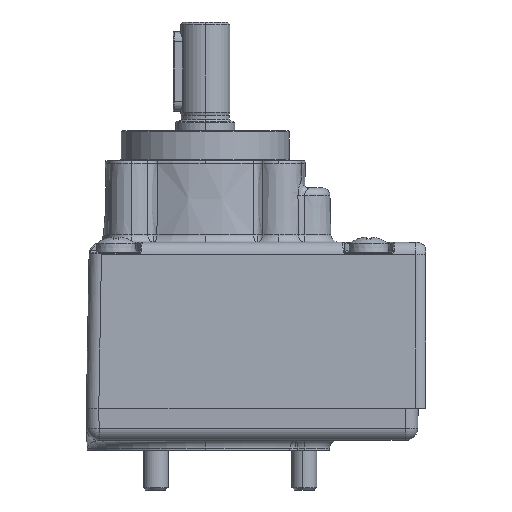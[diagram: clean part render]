
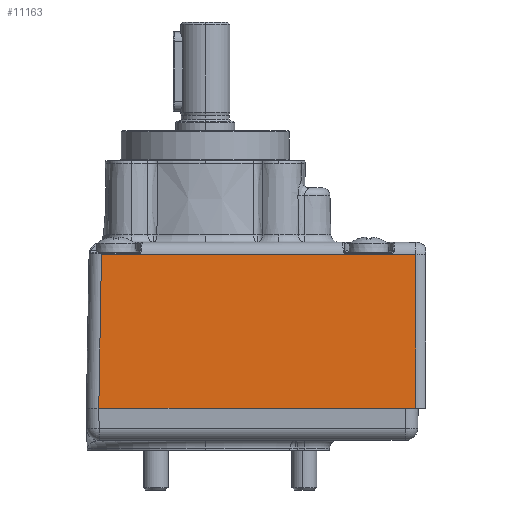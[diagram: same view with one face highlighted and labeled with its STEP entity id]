
A CAD part, left-side view. The second image highlights one B-rep face of the part: STEP entity #11163.
In plain terms, the highlighted planar face has unit normal (-1, 0, 0.018).
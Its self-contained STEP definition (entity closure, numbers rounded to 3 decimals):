
#356 = VERTEX_POINT ( 'NONE', #24984 ) ;
#463 = CARTESIAN_POINT ( 'NONE',  ( -35.449, -0.578, 30.844 ) ) ;
#1421 = PLANE ( 'NONE',  #15053 ) ;
#2654 = CARTESIAN_POINT ( 'NONE',  ( -35.991, -64.027, -0.2 ) ) ;
#3793 = LINE ( 'NONE', #30457, #26257 ) ;
#4061 = VECTOR ( 'NONE', #25801, 1000. ) ;
#7667 = ORIENTED_EDGE ( 'NONE', *, *, #12171, .T. ) ;
#8366 = CARTESIAN_POINT ( 'NONE',  ( -35.991, -62.019, -0.2 ) ) ;
#8465 = LINE ( 'NONE', #26934, #21208 ) ;
#10076 = VECTOR ( 'NONE', #28712, 1000. ) ;
#10879 = VERTEX_POINT ( 'NONE', #8366 ) ;
#11163 = ADVANCED_FACE ( 'NONE', ( #25426 ), #1421, .T. ) ;
#11574 = LINE ( 'NONE', #16971, #20138 ) ;
#11875 = VERTEX_POINT ( 'NONE', #463 ) ;
#12171 = EDGE_CURVE ( 'NONE', #11875, #12320, #28534, .T. ) ;
#12320 = VERTEX_POINT ( 'NONE', #26260 ) ;
#12501 = EDGE_CURVE ( 'NONE', #17400, #10879, #8465, .T. ) ;
#13655 = EDGE_CURVE ( 'NONE', #10879, #12320, #11574, .T. ) ;
#14237 = ORIENTED_EDGE ( 'NONE', *, *, #12501, .F. ) ;
#14263 = EDGE_CURVE ( 'NONE', #356, #11875, #18139, .T. ) ;
#14399 = DIRECTION ( 'NONE',  ( 0., 1., 0. ) ) ;
#14984 = DIRECTION ( 'NONE',  ( -1., 0., 0.017 ) ) ;
#15053 = AXIS2_PLACEMENT_3D ( 'NONE', #25956, #14984, #33635 ) ;
#16971 = CARTESIAN_POINT ( 'NONE',  ( -35.991, -64.527, -0.2 ) ) ;
#17206 = DIRECTION ( 'NONE',  ( 0.017, 0., 1. ) ) ;
#17400 = VERTEX_POINT ( 'NONE', #2654 ) ;
#18139 = LINE ( 'NONE', #28406, #4061 ) ;
#20138 = VECTOR ( 'NONE', #28282, 1000. ) ;
#20918 = ORIENTED_EDGE ( 'NONE', *, *, #14263, .T. ) ;
#21208 = VECTOR ( 'NONE', #14399, 1000. ) ;
#24843 = ORIENTED_EDGE ( 'NONE', *, *, #33816, .T. ) ;
#24984 = CARTESIAN_POINT ( 'NONE',  ( -35.449, -64.027, 30.844 ) ) ;
#25426 = FACE_OUTER_BOUND ( 'NONE', #34279, .T. ) ;
#25801 = DIRECTION ( 'NONE',  ( 0., 1., 0. ) ) ;
#25956 = CARTESIAN_POINT ( 'NONE',  ( -36., -66.527, -0.7 ) ) ;
#26257 = VECTOR ( 'NONE', #17206, 1000. ) ;
#26260 = CARTESIAN_POINT ( 'NONE',  ( -35.991, -0.036, -0.2 ) ) ;
#26934 = CARTESIAN_POINT ( 'NONE',  ( -35.991, -66.527, -0.2 ) ) ;
#27539 = CARTESIAN_POINT ( 'NONE',  ( -35.98, -0.047, 0.46 ) ) ;
#28282 = DIRECTION ( 'NONE',  ( 0., 1., 0. ) ) ;
#28406 = CARTESIAN_POINT ( 'NONE',  ( -35.449, -66.527, 30.844 ) ) ;
#28534 = LINE ( 'NONE', #27539, #10076 ) ;
#28712 = DIRECTION ( 'NONE',  ( -0.017, 0.017, -1. ) ) ;
#30457 = CARTESIAN_POINT ( 'NONE',  ( -36., -64.027, -0.7 ) ) ;
#30681 = ORIENTED_EDGE ( 'NONE', *, *, #13655, .F. ) ;
#33635 = DIRECTION ( 'NONE',  ( 0.017, 0., 1. ) ) ;
#33816 = EDGE_CURVE ( 'NONE', #17400, #356, #3793, .T. ) ;
#34279 = EDGE_LOOP ( 'NONE', ( #14237, #24843, #20918, #7667, #30681 ) ) ;
